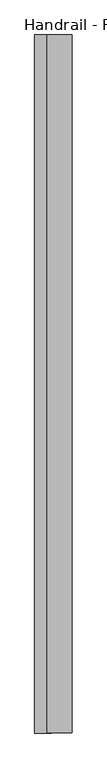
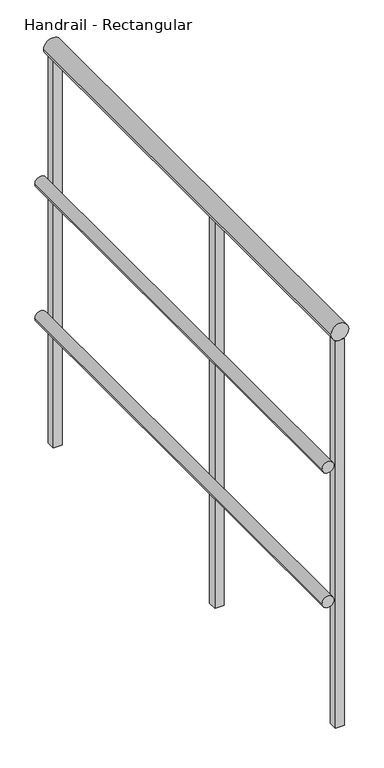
"""IFC4 building model written with IfcOpenShell, lengths in millimetres: railing geometry, Handrail - Rectangular."""

from ifc_helpers import new_model, si_unit, point, frame, frame_2d, origin, place, context, project, spatial, polyline, circle_curve, trimmed, segment, composite_curve, outline, extrude, source, transform, mapped, element, save


def handrail_rectangular_9a0f738c(model_context):
    return source(origin(), model_context, "Body", "SweptSolid", [
        extrude(outline(composite_curve([segment(trimmed(circle_curve(frame_2d((9740.9, -32192.8839563)), 12.7), [point((9740.9, -32205.5839563))], [point((9740.9, -32180.1839563))], False, "CARTESIAN"), True, "CONTINUOUS"), segment(trimmed(circle_curve(frame_2d((9740.9, -32192.8839563)), 12.7), [point((9740.9, -32180.1839563))], [point((9740.9, -32205.5839563))], False, "CARTESIAN"), True, "CONTINUOUS")], self_intersect=False)), frame((0.0, 6864.8316867, 0.0), z_axis=(0.0, 1.0, 0.0), x_axis=(0.0, 0.0, 1.0)), (0.0, 0.0, 1.0), 1066.8),
        extrude(outline(composite_curve([segment(trimmed(circle_curve(frame_2d((9436.1, -32192.8839563)), 12.7), [point((9436.1, -32205.5839563))], [point((9436.1, -32180.1839563))], False, "CARTESIAN"), True, "CONTINUOUS"), segment(trimmed(circle_curve(frame_2d((9436.1, -32192.8839563)), 12.7), [point((9436.1, -32180.1839563))], [point((9436.1, -32205.5839563))], False, "CARTESIAN"), True, "CONTINUOUS")], self_intersect=False)), frame((0.0, 6864.8316867, 0.0), z_axis=(0.0, 1.0, 0.0), x_axis=(0.0, 0.0, 1.0)), (0.0, 0.0, 1.0), 1066.8),
        extrude(outline(composite_curve([segment(trimmed(circle_curve(frame_2d((10039.35, -32167.4839563)), 19.05), [point((10039.35, -32186.5339563))], [point((10039.35, -32148.4339563))], False, "CARTESIAN"), True, "CONTINUOUS"), segment(trimmed(circle_curve(frame_2d((10039.35, -32167.4839563)), 19.05), [point((10039.35, -32148.4339563))], [point((10039.35, -32186.5339563))], False, "CARTESIAN"), True, "CONTINUOUS")], self_intersect=False)), frame((0.0, 6864.8316867, 0.0), z_axis=(0.0, 1.0, 0.0), x_axis=(0.0, 0.0, 1.0)), (0.0, 0.0, 1.0), 1066.8),
        extrude(outline(polyline([(-32157.9589563, 7331.5566867), (-32157.9589563, 7312.5066867), (-32177.0089563, 7312.5066867), (-32177.0089563, 7331.5566867), (-32157.9589563, 7331.5566867)])), frame((0.0, 0.0, 9144.0), z_axis=(0.0, 0.0, 1.0), x_axis=(1.0, 0.0, 0.0)), (0.0, 0.0, 1.0), 876.3),
        extrude(outline(polyline([(-32157.9589563, 6883.8816867), (-32157.9589563, 6864.8316867), (-32177.0089563, 6864.8316867), (-32177.0089563, 6883.8816867), (-32157.9589563, 6883.8816867)])), frame((0.0, 0.0, 9144.0), z_axis=(0.0, 0.0, 1.0), x_axis=(1.0, 0.0, 0.0)), (0.0, 0.0, 1.0), 876.3),
        extrude(outline(polyline([(-32157.9589563, 7931.6316867), (-32157.9589563, 7912.5816867), (-32177.0089563, 7912.5816867), (-32177.0089563, 7931.6316867), (-32157.9589563, 7931.6316867)])), frame((0.0, 0.0, 9144.0), z_axis=(0.0, 0.0, 1.0), x_axis=(1.0, 0.0, 0.0)), (0.0, 0.0, 1.0), 876.3),
    ])


if __name__ == "__main__":
    model = new_model("IFC4")
    model_context = context("Model", 3, world=origin())
    ifc_project = project(units=[si_unit("LENGTHUNIT", "METRE", prefix="MILLI")], contexts=[model_context])
    site = spatial("IfcSite", under=ifc_project)
    building = spatial("IfcBuilding", under=site)
    placement = place(None, origin())
    handrail_rectangular_shape = handrail_rectangular_9a0f738c(model_context)
    element("IfcRailing", 1, ObjectType="Handrail - Rectangular", at=placement, inside=building, context=model_context, shape_type="MappedRepresentation", body=[
        mapped(handrail_rectangular_shape, transform((0.0, 0.0, 0.0), x_axis=(1.0, 0.0, 0.0), y_axis=(0.0, 1.0, 0.0), z_axis=(0.0, 0.0, 1.0))),
    ])
    save(model, "model.ifc")
